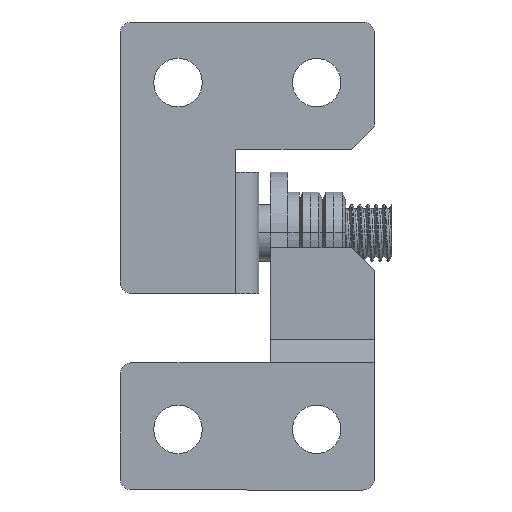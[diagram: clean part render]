
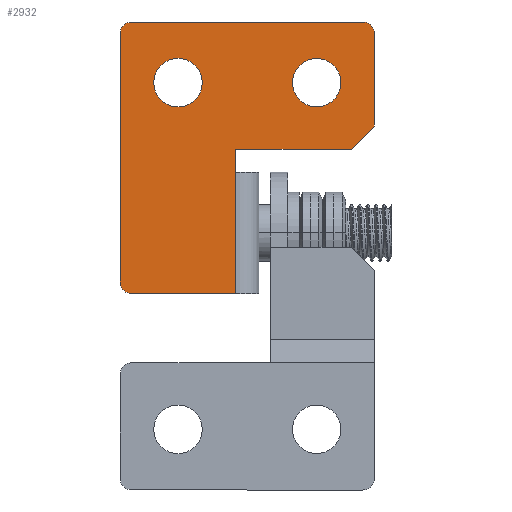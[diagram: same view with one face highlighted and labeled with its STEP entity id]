
A CAD part, front view. The second image highlights one B-rep face of the part: STEP entity #2932.
In plain terms, the highlighted planar face has unit normal (0, -1, 0).
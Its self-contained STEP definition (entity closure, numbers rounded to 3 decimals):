
#2 = CARTESIAN_POINT ( 'NONE',  ( 3.136, 0., 11.299 ) ) ;
#46 = VERTEX_POINT ( 'NONE', #3663 ) ;
#51 = LINE ( 'NONE', #414, #1703 ) ;
#91 = ORIENTED_EDGE ( 'NONE', *, *, #1919, .T. ) ;
#120 = ORIENTED_EDGE ( 'NONE', *, *, #1034, .T. ) ;
#187 = AXIS2_PLACEMENT_3D ( 'NONE', #2144, #2493, #2904 ) ;
#197 = DIRECTION ( 'NONE',  ( 0., 1., 0. ) ) ;
#265 = CIRCLE ( 'NONE', #2815, 1. ) ;
#349 = EDGE_CURVE ( 'NONE', #1406, #2614, #2557, .T. ) ;
#366 = CARTESIAN_POINT ( 'NONE',  ( 3.136, 0., 13.399 ) ) ;
#370 = CARTESIAN_POINT ( 'NONE',  ( -3.864, 0., 5.549 ) ) ;
#375 = EDGE_CURVE ( 'NONE', #3599, #1461, #51, .T. ) ;
#390 = DIRECTION ( 'NONE',  ( 0., -1., 0. ) ) ;
#396 = AXIS2_PLACEMENT_3D ( 'NONE', #2, #2690, #2996 ) ;
#414 = CARTESIAN_POINT ( 'NONE',  ( -13.864, 0., -6.951 ) ) ;
#424 = LINE ( 'NONE', #1938, #1705 ) ;
#469 = EDGE_CURVE ( 'NONE', #1541, #3904, #2594, .T. ) ;
#526 = ORIENTED_EDGE ( 'NONE', *, *, #1127, .T. ) ;
#534 = CARTESIAN_POINT ( 'NONE',  ( -12.864, 0., -5.951 ) ) ;
#566 = CARTESIAN_POINT ( 'NONE',  ( -13.864, 0., 16.549 ) ) ;
#581 = CIRCLE ( 'NONE', #187, 2.1 ) ;
#642 = VECTOR ( 'NONE', #1278, 1000. ) ;
#667 = ORIENTED_EDGE ( 'NONE', *, *, #4457, .T. ) ;
#705 = VERTEX_POINT ( 'NONE', #1756 ) ;
#714 = DIRECTION ( 'NONE',  ( 1., 0., 0. ) ) ;
#737 = LINE ( 'NONE', #1119, #2891 ) ;
#752 = DIRECTION ( 'NONE',  ( -1., 0., 0. ) ) ;
#772 = EDGE_LOOP ( 'NONE', ( #3116, #3777 ) ) ;
#781 = LINE ( 'NONE', #2648, #3176 ) ;
#829 = DIRECTION ( 'NONE',  ( 0., 0., -1. ) ) ;
#1034 = EDGE_CURVE ( 'NONE', #1541, #2916, #4468, .T. ) ;
#1060 = EDGE_CURVE ( 'NONE', #4099, #2916, #781, .T. ) ;
#1098 = ORIENTED_EDGE ( 'NONE', *, *, #469, .F. ) ;
#1119 = CARTESIAN_POINT ( 'NONE',  ( 8.136, 0., 16.549 ) ) ;
#1127 = EDGE_CURVE ( 'NONE', #3599, #2879, #424, .T. ) ;
#1171 = DIRECTION ( 'NONE',  ( 0., -1., 0. ) ) ;
#1187 = DIRECTION ( 'NONE',  ( 0., 1., 0. ) ) ;
#1189 = LINE ( 'NONE', #4109, #3335 ) ;
#1211 = CARTESIAN_POINT ( 'NONE',  ( -3.864, 0., 3.549 ) ) ;
#1278 = DIRECTION ( 'NONE',  ( 0., 0., 1. ) ) ;
#1284 = ORIENTED_EDGE ( 'NONE', *, *, #1060, .F. ) ;
#1292 = DIRECTION ( 'NONE',  ( 0., -1., 0. ) ) ;
#1378 = CARTESIAN_POINT ( 'NONE',  ( -12.864, 0., -6.951 ) ) ;
#1406 = VERTEX_POINT ( 'NONE', #366 ) ;
#1461 = VERTEX_POINT ( 'NONE', #1378 ) ;
#1471 = CARTESIAN_POINT ( 'NONE',  ( 8.136, 0., 7.549 ) ) ;
#1495 = FACE_BOUND ( 'NONE', #2912, .T. ) ;
#1500 = DIRECTION ( 'NONE',  ( 0., 0., -1. ) ) ;
#1525 = EDGE_CURVE ( 'NONE', #2739, #46, #3694, .T. ) ;
#1535 = CARTESIAN_POINT ( 'NONE',  ( -13.864, 0., -5.951 ) ) ;
#1541 = VERTEX_POINT ( 'NONE', #2271 ) ;
#1601 = CARTESIAN_POINT ( 'NONE',  ( 0.294, 0., -0.294 ) ) ;
#1611 = ORIENTED_EDGE ( 'NONE', *, *, #3897, .F. ) ;
#1703 = VECTOR ( 'NONE', #4106, 1000. ) ;
#1705 = VECTOR ( 'NONE', #1964, 1000. ) ;
#1756 = CARTESIAN_POINT ( 'NONE',  ( 7.136, 0., 16.549 ) ) ;
#1768 = CARTESIAN_POINT ( 'NONE',  ( -12.864, 0., 15.549 ) ) ;
#1879 = ORIENTED_EDGE ( 'NONE', *, *, #2976, .F. ) ;
#1902 = CARTESIAN_POINT ( 'NONE',  ( 8.136, 0., 15.549 ) ) ;
#1919 = EDGE_CURVE ( 'NONE', #3750, #1461, #2013, .T. ) ;
#1938 = CARTESIAN_POINT ( 'NONE',  ( -3.864, 0., -6.951 ) ) ;
#1964 = DIRECTION ( 'NONE',  ( 0., 0., 1. ) ) ;
#2013 = CIRCLE ( 'NONE', #3480, 1. ) ;
#2031 = CARTESIAN_POINT ( 'NONE',  ( -13.864, 0., 15.549 ) ) ;
#2092 = CARTESIAN_POINT ( 'NONE',  ( -3.864, 0., -6.951 ) ) ;
#2124 = ORIENTED_EDGE ( 'NONE', *, *, #375, .F. ) ;
#2143 = CIRCLE ( 'NONE', #2699, 1. ) ;
#2144 = CARTESIAN_POINT ( 'NONE',  ( -8.864, 0., 11.299 ) ) ;
#2263 = CIRCLE ( 'NONE', #3968, 2.1 ) ;
#2271 = CARTESIAN_POINT ( 'NONE',  ( 6.136, 0., 5.549 ) ) ;
#2402 = CARTESIAN_POINT ( 'NONE',  ( 3.136, 0., 9.199 ) ) ;
#2474 = VERTEX_POINT ( 'NONE', #2031 ) ;
#2476 = ORIENTED_EDGE ( 'NONE', *, *, #2831, .F. ) ;
#2493 = DIRECTION ( 'NONE',  ( 0., 1., 0. ) ) ;
#2557 = CIRCLE ( 'NONE', #396, 2.1 ) ;
#2594 = LINE ( 'NONE', #4057, #3653 ) ;
#2614 = VERTEX_POINT ( 'NONE', #2402 ) ;
#2648 = CARTESIAN_POINT ( 'NONE',  ( 8.136, 0., 5.549 ) ) ;
#2664 = ORIENTED_EDGE ( 'NONE', *, *, #3161, .T. ) ;
#2690 = DIRECTION ( 'NONE',  ( 0., 1., 0. ) ) ;
#2699 = AXIS2_PLACEMENT_3D ( 'NONE', #4472, #1171, #4120 ) ;
#2707 = DIRECTION ( 'NONE',  ( 0., 0., -1. ) ) ;
#2739 = VERTEX_POINT ( 'NONE', #3606 ) ;
#2745 = EDGE_CURVE ( 'NONE', #4451, #2474, #265, .T. ) ;
#2754 = ORIENTED_EDGE ( 'NONE', *, *, #1525, .T. ) ;
#2759 = DIRECTION ( 'NONE',  ( 0., 0., 1. ) ) ;
#2807 = LINE ( 'NONE', #566, #642 ) ;
#2815 = AXIS2_PLACEMENT_3D ( 'NONE', #1768, #3629, #3583 ) ;
#2831 = EDGE_CURVE ( 'NONE', #3904, #2879, #1189, .T. ) ;
#2879 = VERTEX_POINT ( 'NONE', #1211 ) ;
#2891 = VECTOR ( 'NONE', #714, 1000. ) ;
#2904 = DIRECTION ( 'NONE',  ( 0., 0., 1. ) ) ;
#2912 = EDGE_LOOP ( 'NONE', ( #2664, #2754 ) ) ;
#2916 = VERTEX_POINT ( 'NONE', #1471 ) ;
#2932 = ADVANCED_FACE ( 'NONE', ( #1495, #4157, #2955 ), #4059, .T. ) ;
#2955 = FACE_OUTER_BOUND ( 'NONE', #3864, .T. ) ;
#2976 = EDGE_CURVE ( 'NONE', #3750, #2474, #2807, .T. ) ;
#2996 = DIRECTION ( 'NONE',  ( 0., 0., 1. ) ) ;
#3009 = CARTESIAN_POINT ( 'NONE',  ( -12.864, 0., 16.549 ) ) ;
#3015 = EDGE_CURVE ( 'NONE', #2614, #1406, #2263, .T. ) ;
#3116 = ORIENTED_EDGE ( 'NONE', *, *, #349, .T. ) ;
#3161 = EDGE_CURVE ( 'NONE', #46, #2739, #581, .T. ) ;
#3176 = VECTOR ( 'NONE', #1500, 1000. ) ;
#3335 = VECTOR ( 'NONE', #829, 1000. ) ;
#3336 = DIRECTION ( 'NONE',  ( 0., 0., 1. ) ) ;
#3411 = CARTESIAN_POINT ( 'NONE',  ( -8.864, 0., 11.299 ) ) ;
#3443 = DIRECTION ( 'NONE',  ( 0.707, 0., 0.707 ) ) ;
#3480 = AXIS2_PLACEMENT_3D ( 'NONE', #534, #1292, #2707 ) ;
#3583 = DIRECTION ( 'NONE',  ( 0., 0., -1. ) ) ;
#3599 = VERTEX_POINT ( 'NONE', #2092 ) ;
#3606 = CARTESIAN_POINT ( 'NONE',  ( -8.864, 0., 9.199 ) ) ;
#3629 = DIRECTION ( 'NONE',  ( 0., -1., 0. ) ) ;
#3653 = VECTOR ( 'NONE', #752, 1000. ) ;
#3663 = CARTESIAN_POINT ( 'NONE',  ( -8.864, 0., 13.399 ) ) ;
#3694 = CIRCLE ( 'NONE', #3859, 2.1 ) ;
#3696 = CARTESIAN_POINT ( 'NONE',  ( 0., 0., 0. ) ) ;
#3749 = DIRECTION ( 'NONE',  ( 0., 0., -1. ) ) ;
#3750 = VERTEX_POINT ( 'NONE', #1535 ) ;
#3777 = ORIENTED_EDGE ( 'NONE', *, *, #3015, .T. ) ;
#3859 = AXIS2_PLACEMENT_3D ( 'NONE', #3411, #1187, #3336 ) ;
#3864 = EDGE_LOOP ( 'NONE', ( #1611, #4029, #1879, #91, #2124, #526, #2476, #1098, #120, #1284, #667 ) ) ;
#3897 = EDGE_CURVE ( 'NONE', #4451, #705, #737, .T. ) ;
#3904 = VERTEX_POINT ( 'NONE', #370 ) ;
#3968 = AXIS2_PLACEMENT_3D ( 'NONE', #4201, #197, #2759 ) ;
#4029 = ORIENTED_EDGE ( 'NONE', *, *, #2745, .T. ) ;
#4057 = CARTESIAN_POINT ( 'NONE',  ( -3.864, 0., 5.549 ) ) ;
#4059 = PLANE ( 'NONE',  #4564 ) ;
#4099 = VERTEX_POINT ( 'NONE', #1902 ) ;
#4106 = DIRECTION ( 'NONE',  ( -1., 0., 0. ) ) ;
#4109 = CARTESIAN_POINT ( 'NONE',  ( -3.864, 0., -6.951 ) ) ;
#4120 = DIRECTION ( 'NONE',  ( 0., 0., -1. ) ) ;
#4157 = FACE_BOUND ( 'NONE', #772, .T. ) ;
#4201 = CARTESIAN_POINT ( 'NONE',  ( 3.136, 0., 11.299 ) ) ;
#4401 = VECTOR ( 'NONE', #3443, 1000. ) ;
#4451 = VERTEX_POINT ( 'NONE', #3009 ) ;
#4457 = EDGE_CURVE ( 'NONE', #4099, #705, #2143, .T. ) ;
#4468 = LINE ( 'NONE', #1601, #4401 ) ;
#4472 = CARTESIAN_POINT ( 'NONE',  ( 7.136, 0., 15.549 ) ) ;
#4564 = AXIS2_PLACEMENT_3D ( 'NONE', #3696, #390, #3749 ) ;
